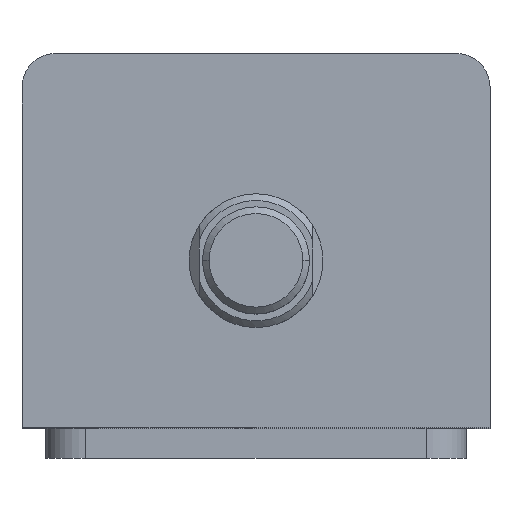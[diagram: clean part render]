
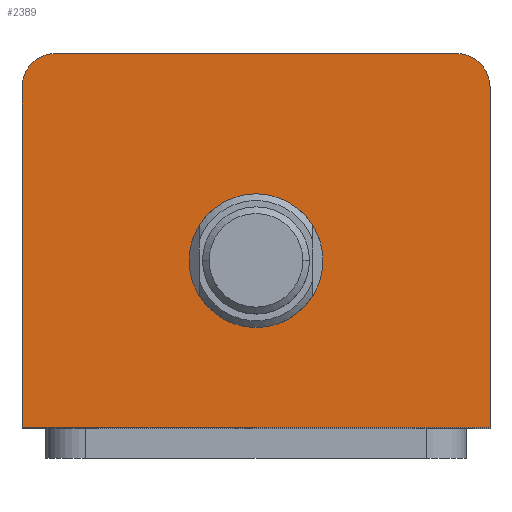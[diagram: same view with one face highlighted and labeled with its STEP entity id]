
A CAD part, top view. The second image highlights one B-rep face of the part: STEP entity #2389.
In plain terms, the highlighted planar face has unit normal (0, 0, 1).
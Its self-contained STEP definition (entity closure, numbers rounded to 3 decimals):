
#140 = AXIS2_PLACEMENT_3D ( 'NONE', #987, #970, #966 ) ;
#311 = EDGE_CURVE ( 'NONE', #441, #505, #629, .T. ) ;
#403 = EDGE_CURVE ( 'NONE', #448, #546, #673, .T. ) ;
#441 = VERTEX_POINT ( 'NONE', #2993 ) ;
#448 = VERTEX_POINT ( 'NONE', #2981 ) ;
#473 = EDGE_CURVE ( 'NONE', #509, #525, #722, .T. ) ;
#505 = VERTEX_POINT ( 'NONE', #2882 ) ;
#509 = VERTEX_POINT ( 'NONE', #2987 ) ;
#525 = VERTEX_POINT ( 'NONE', #2819 ) ;
#546 = VERTEX_POINT ( 'NONE', #2888 ) ;
#581 = VERTEX_POINT ( 'NONE', #2881 ) ;
#584 = VERTEX_POINT ( 'NONE', #2873 ) ;
#629 = CIRCLE ( 'NONE', #2296, 5. ) ;
#673 = LINE ( 'NONE', #3101, #677 ) ;
#677 = VECTOR ( 'NONE', #3107, 1000. ) ;
#722 = CIRCLE ( 'NONE', #2261, 10. ) ;
#966 = DIRECTION ( 'NONE',  ( 1., 0., 0. ) ) ;
#970 = DIRECTION ( 'NONE',  ( 0., 0., 1. ) ) ;
#976 = PLANE ( 'NONE',  #140 ) ;
#987 = CARTESIAN_POINT ( 'NONE',  ( 0., 0., 79. ) ) ;
#1389 = DIRECTION ( 'NONE',  ( 0., 0., 1. ) ) ;
#1390 = DIRECTION ( 'NONE',  ( 1., 0., 0. ) ) ;
#1391 = CARTESIAN_POINT ( 'NONE',  ( 30., 23., 79. ) ) ;
#1452 = EDGE_LOOP ( 'NONE', ( #1787, #1786, #1785, #1784, #1783, #1782 ) ) ;
#1454 = EDGE_LOOP ( 'NONE', ( #1789, #1788 ) ) ;
#1782 = ORIENTED_EDGE ( 'NONE', *, *, #2368, .T. ) ;
#1783 = ORIENTED_EDGE ( 'NONE', *, *, #403, .T. ) ;
#1784 = ORIENTED_EDGE ( 'NONE', *, *, #2266, .T. ) ;
#1785 = ORIENTED_EDGE ( 'NONE', *, *, #2272, .T. ) ;
#1786 = ORIENTED_EDGE ( 'NONE', *, *, #311, .T. ) ;
#1787 = ORIENTED_EDGE ( 'NONE', *, *, #2360, .T. ) ;
#1788 = ORIENTED_EDGE ( 'NONE', *, *, #2337, .F. ) ;
#1789 = ORIENTED_EDGE ( 'NONE', *, *, #473, .F. ) ;
#1840 = DIRECTION ( 'NONE',  ( 1., 0., 0. ) ) ;
#1842 = CARTESIAN_POINT ( 'NONE',  ( -35., -28., 79. ) ) ;
#1867 = DIRECTION ( 'NONE',  ( 0., 1., 0. ) ) ;
#1868 = CARTESIAN_POINT ( 'NONE',  ( 35., 28., 79. ) ) ;
#1938 = DIRECTION ( 'NONE',  ( 1., 0., 0. ) ) ;
#1940 = DIRECTION ( 'NONE',  ( 0., 0., 1. ) ) ;
#1941 = CARTESIAN_POINT ( 'NONE',  ( 0., -3., 79. ) ) ;
#2094 = DIRECTION ( 'NONE',  ( -1., 0., 0. ) ) ;
#2095 = CARTESIAN_POINT ( 'NONE',  ( -35., 28., 79. ) ) ;
#2099 = DIRECTION ( 'NONE',  ( 1., 0., 0. ) ) ;
#2100 = DIRECTION ( 'NONE',  ( 0., 0., 1. ) ) ;
#2101 = CARTESIAN_POINT ( 'NONE',  ( -30., 23., 79. ) ) ;
#2187 = AXIS2_PLACEMENT_3D ( 'NONE', #1941, #1940, #1938 ) ;
#2207 = AXIS2_PLACEMENT_3D ( 'NONE', #2101, #2100, #2099 ) ;
#2261 = AXIS2_PLACEMENT_3D ( 'NONE', #2936, #2935, #2934 ) ;
#2266 = EDGE_CURVE ( 'NONE', #584, #448, #2578, .T. ) ;
#2272 = EDGE_CURVE ( 'NONE', #505, #584, #2589, .T. ) ;
#2296 = AXIS2_PLACEMENT_3D ( 'NONE', #1391, #1389, #1390 ) ;
#2337 = EDGE_CURVE ( 'NONE', #525, #509, #2661, .T. ) ;
#2360 = EDGE_CURVE ( 'NONE', #581, #441, #2695, .T. ) ;
#2368 = EDGE_CURVE ( 'NONE', #546, #581, #2708, .T. ) ;
#2389 = ADVANCED_FACE ( 'NONE', ( #2731, #2739 ), #976, .T. ) ;
#2578 = CIRCLE ( 'NONE', #2207, 5. ) ;
#2589 = LINE ( 'NONE', #2095, #2592 ) ;
#2592 = VECTOR ( 'NONE', #2094, 1000. ) ;
#2661 = CIRCLE ( 'NONE', #2187, 10. ) ;
#2695 = LINE ( 'NONE', #1868, #2698 ) ;
#2698 = VECTOR ( 'NONE', #1867, 1000. ) ;
#2708 = LINE ( 'NONE', #1842, #2711 ) ;
#2711 = VECTOR ( 'NONE', #1840, 1000. ) ;
#2731 = FACE_BOUND ( 'NONE', #1454, .T. ) ;
#2739 = FACE_OUTER_BOUND ( 'NONE', #1452, .T. ) ;
#2819 = CARTESIAN_POINT ( 'NONE',  ( -10., -3., 79. ) ) ;
#2873 = CARTESIAN_POINT ( 'NONE',  ( -30., 28., 79. ) ) ;
#2881 = CARTESIAN_POINT ( 'NONE',  ( 35., -28., 79. ) ) ;
#2882 = CARTESIAN_POINT ( 'NONE',  ( 30., 28., 79. ) ) ;
#2888 = CARTESIAN_POINT ( 'NONE',  ( -35., -28., 79. ) ) ;
#2934 = DIRECTION ( 'NONE',  ( 1., 0., 0. ) ) ;
#2935 = DIRECTION ( 'NONE',  ( 0., 0., 1. ) ) ;
#2936 = CARTESIAN_POINT ( 'NONE',  ( 0., -3., 79. ) ) ;
#2981 = CARTESIAN_POINT ( 'NONE',  ( -35., 23., 79. ) ) ;
#2987 = CARTESIAN_POINT ( 'NONE',  ( 10., -3., 79. ) ) ;
#2993 = CARTESIAN_POINT ( 'NONE',  ( 35., 23., 79. ) ) ;
#3101 = CARTESIAN_POINT ( 'NONE',  ( -35., 28., 79. ) ) ;
#3107 = DIRECTION ( 'NONE',  ( 0., -1., 0. ) ) ;
